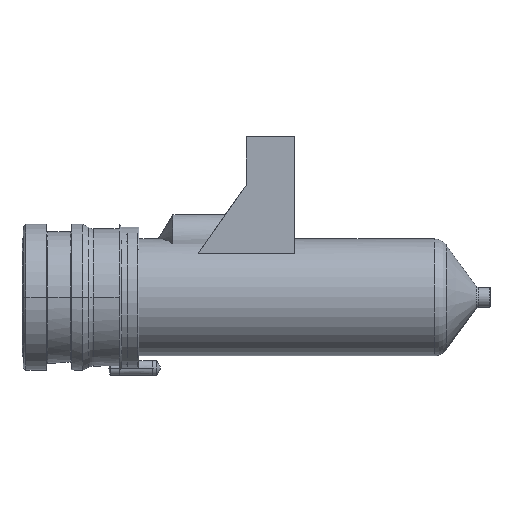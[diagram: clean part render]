
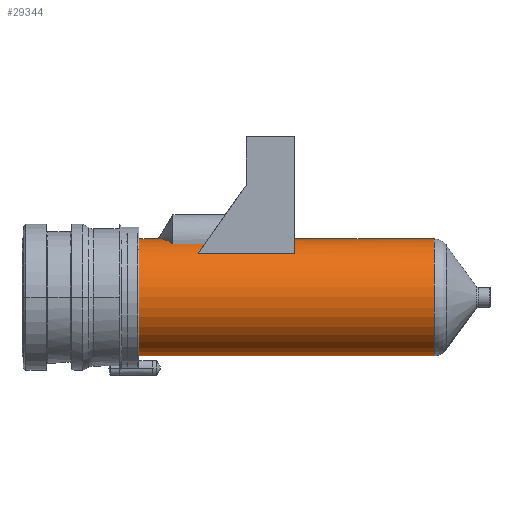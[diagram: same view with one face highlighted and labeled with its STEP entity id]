
A CAD part, left-side view. The second image highlights one B-rep face of the part: STEP entity #29344.
In plain terms, the highlighted cylindrical face has radius 12 mm (diameter 24 mm), a partial arc.
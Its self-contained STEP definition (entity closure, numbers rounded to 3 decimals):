
#28675=DIRECTION('',(0.,-1.,0.));
#28676=VECTOR('',#28675,19.842);
#28677=CARTESIAN_POINT('',(-8.,-36.158,8.944));
#28678=LINE('',#28677,#28676);
#28682=CARTESIAN_POINT('',(-4.89,-37.568,
10.958));
#28683=CARTESIAN_POINT('',(-5.478,-37.385,
10.696));
#28684=CARTESIAN_POINT('',(-6.58,-36.962,
10.092));
#28685=CARTESIAN_POINT('',(-7.548,-36.441,
9.349));
#28686=CARTESIAN_POINT('',(-8.,-36.158,8.944));
#28700=CARTESIAN_POINT('',(0.,-24.,0.));
#28701=DIRECTION('',(0.,1.,0.));
#28702=DIRECTION('',(0.,0.,-1.));
#28703=AXIS2_PLACEMENT_3D('',#28700,#28701,#28702);
#28723=CARTESIAN_POINT('',(0.,-56.,0.));
#28724=DIRECTION('',(0.,-1.,0.));
#28725=DIRECTION('',(0.,0.,1.));
#28726=AXIS2_PLACEMENT_3D('',#28723,#28724,#28725);
#28780=DIRECTION('',(0.,1.,0.));
#28781=VECTOR('',#28780,4.);
#28782=CARTESIAN_POINT('',(0.,-28.,12.));
#28783=LINE('',#28782,#28781);
#28795=DIRECTION('',(0.,1.,0.));
#28796=VECTOR('',#28795,60.671);
#28797=CARTESIAN_POINT('',(0.,-84.671,-12.));
#28798=LINE('',#28797,#28796);
#28802=DIRECTION('',(0.,1.,0.));
#28803=VECTOR('',#28802,28.671);
#28804=CARTESIAN_POINT('',(0.,-84.671,12.));
#28805=LINE('',#28804,#28803);
#28816=CARTESIAN_POINT('',(-4.89,-37.568,
10.958));
#28845=DIRECTION('',(0.,-1.,0.));
#28846=VECTOR('',#28845,6.564);
#28847=CARTESIAN_POINT('',(-4.89,-31.004,
10.958));
#28848=LINE('',#28847,#28846);
#28861=CARTESIAN_POINT('',(0.,-28.,12.));
#28874=CARTESIAN_POINT('',(0.,-28.,12.));
#28875=CARTESIAN_POINT('',(-0.24,-28.144,12.));
#28876=CARTESIAN_POINT('',(-0.72,-28.433,
11.986));
#28877=CARTESIAN_POINT('',(-1.438,-28.865,
11.921));
#28878=CARTESIAN_POINT('',(-2.151,-29.297,
11.813));
#28879=CARTESIAN_POINT('',(-2.855,-29.727,
11.663));
#28880=CARTESIAN_POINT('',(-3.549,-30.155,
11.471));
#28881=CARTESIAN_POINT('',(-4.229,-30.582,
11.238));
#28882=CARTESIAN_POINT('',(-4.672,-30.864,
11.056));
#28883=CARTESIAN_POINT('',(-4.89,-31.004,
10.958));
#29092=CARTESIAN_POINT('',(0.,-84.671,0.));
#29093=DIRECTION('',(0.,-1.,0.));
#29094=DIRECTION('',(0.,0.,1.));
#29095=AXIS2_PLACEMENT_3D('',#29092,#29093,#29094);
#29232=CARTESIAN_POINT('',(-8.,-36.158,8.944));
#29233=VERTEX_POINT('',#29232);
#29234=CARTESIAN_POINT('',(-8.,-56.,8.944));
#29235=VERTEX_POINT('',#29234);
#29240=VERTEX_POINT('',#28816);
#29242=CARTESIAN_POINT('',(-4.89,-31.004,
10.958));
#29244=VERTEX_POINT('',#29242);
#29250=CARTESIAN_POINT('',(0.,-84.671,-12.));
#29251=CARTESIAN_POINT('',(0.,-24.,-12.));
#29252=VERTEX_POINT('',#29250);
#29253=VERTEX_POINT('',#29251);
#29258=CARTESIAN_POINT('',(0.,-24.,12.));
#29259=VERTEX_POINT('',#29258);
#29268=CARTESIAN_POINT('',(0.,-84.671,12.));
#29269=VERTEX_POINT('',#29268);
#29279=CARTESIAN_POINT('',(0.,-56.,12.));
#29280=VERTEX_POINT('',#29279);
#29281=VERTEX_POINT('',#28861);
#29319=CARTESIAN_POINT('',(0.,-16.2,0.));
#29320=DIRECTION('',(0.,-1.,0.));
#29321=DIRECTION('',(0.,0.,1.));
#29322=AXIS2_PLACEMENT_3D('',#29319,#29320,#29321);
#29323=CYLINDRICAL_SURFACE('',#29322,12.);
#29324=ORIENTED_EDGE('',*,*,#29295,.T.);
#29326=ORIENTED_EDGE('',*,*,#29325,.F.);
#29328=ORIENTED_EDGE('',*,*,#29327,.F.);
#29330=ORIENTED_EDGE('',*,*,#29329,.T.);
#29332=ORIENTED_EDGE('',*,*,#29331,.T.);
#29334=ORIENTED_EDGE('',*,*,#29333,.T.);
#29336=ORIENTED_EDGE('',*,*,#29335,.F.);
#29338=ORIENTED_EDGE('',*,*,#29337,.T.);
#29340=ORIENTED_EDGE('',*,*,#29339,.T.);
#29341=ORIENTED_EDGE('',*,*,#29306,.T.);
#29342=EDGE_LOOP('',(#29324,#29326,#29328,#29330,#29332,#29334,#29336,#29338,
#29340,#29341));
#29343=FACE_OUTER_BOUND('',#29342,.F.);
#29344=ADVANCED_FACE('',(#29343),#29323,.T.);
#28687=B_SPLINE_CURVE_WITH_KNOTS('',3,(#28682,#28683,#28684,#28685,#28686),
.UNSPECIFIED.,.F.,.F.,(4,1,4),(0.,0.5,1.),.UNSPECIFIED.);
#28704=CIRCLE('',#28703,12.);
#28727=CIRCLE('',#28726,12.);
#28884=B_SPLINE_CURVE_WITH_KNOTS('',3,(#28874,#28875,#28876,#28877,#28878,
#28879,#28880,#28881,#28882,#28883),.UNSPECIFIED.,.F.,.F.,(4,1,1,1,1,1,1,4),(
0.,0.143,0.286,0.429,0.571,
0.714,0.857,1.),.UNSPECIFIED.);
#29096=CIRCLE('',#29095,12.);
#29295=EDGE_CURVE('',#29233,#29235,#28678,.T.);
#29306=EDGE_CURVE('',#29240,#29233,#28687,.T.);
#29325=EDGE_CURVE('',#29280,#29235,#28727,.T.);
#29327=EDGE_CURVE('',#29269,#29280,#28805,.T.);
#29329=EDGE_CURVE('',#29269,#29252,#29096,.T.);
#29331=EDGE_CURVE('',#29252,#29253,#28798,.T.);
#29333=EDGE_CURVE('',#29253,#29259,#28704,.T.);
#29335=EDGE_CURVE('',#29281,#29259,#28783,.T.);
#29337=EDGE_CURVE('',#29281,#29244,#28884,.T.);
#29339=EDGE_CURVE('',#29244,#29240,#28848,.T.);
